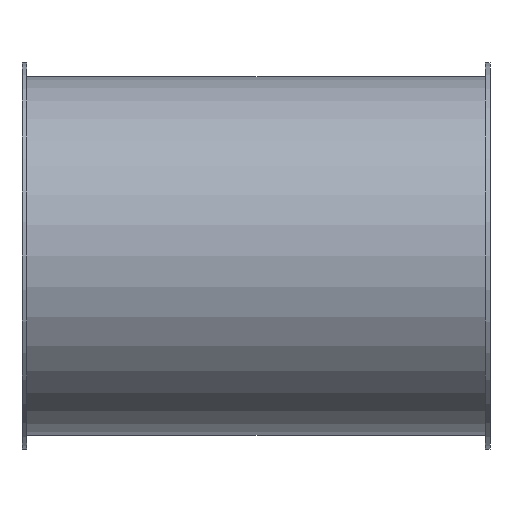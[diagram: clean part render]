
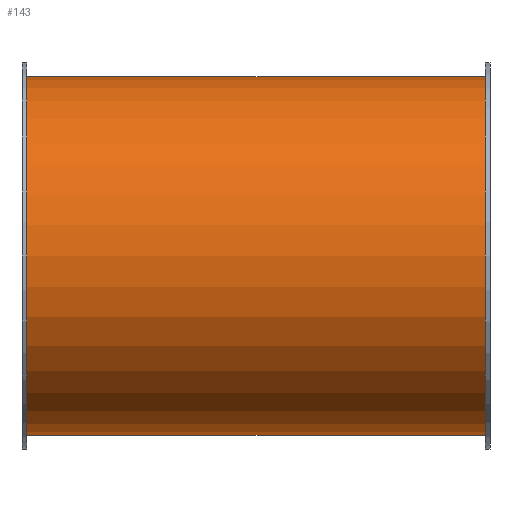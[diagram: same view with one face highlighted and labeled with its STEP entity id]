
A CAD part, front view. The second image highlights one B-rep face of the part: STEP entity #143.
In plain terms, the highlighted cylindrical face has radius 76.5 mm (diameter 153 mm), a full revolution.
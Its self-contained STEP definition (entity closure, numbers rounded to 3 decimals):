
#112=CARTESIAN_POINT('',(166.119,2.817,0.0));
#113=VERTEX_POINT('',#112);
#114=CARTESIAN_POINT('',(166.119,79.317,0.0));
#115=DIRECTION('',(-1.0,0.0,0.0));
#116=DIRECTION('',(0.0,-1.0,0.0));
#117=AXIS2_PLACEMENT_3D('',#114,#115,#116);
#118=CIRCLE('',#117,76.5);
#119=EDGE_CURVE('',#113,#113,#118,.T.);
#124=CARTESIAN_POINT('',(68.119,79.317,0.0));
#125=DIRECTION('',(-1.0,0.,0.0));
#126=DIRECTION('',(0.0,-1.0,0.0));
#127=AXIS2_PLACEMENT_3D('',#124,#125,#126);
#128=CYLINDRICAL_SURFACE('',#127,76.5);
#129=CARTESIAN_POINT('',(-29.881,2.817,0.0));
#130=VERTEX_POINT('',#129);
#131=CARTESIAN_POINT('',(-29.881,79.317,0.0));
#132=DIRECTION('',(-1.0,0.0,0.0));
#133=DIRECTION('',(0.0,-1.0,0.0));
#134=AXIS2_PLACEMENT_3D('',#131,#132,#133);
#135=CIRCLE('',#134,76.5);
#136=EDGE_CURVE('',#130,#130,#135,.T.);
#137=ORIENTED_EDGE('',*,*,#136,.F.);
#138=EDGE_LOOP('',(#137));
#139=FACE_OUTER_BOUND('',#138,.T.);
#140=ORIENTED_EDGE('',*,*,#119,.T.);
#141=EDGE_LOOP('',(#140));
#142=FACE_BOUND('',#141,.T.);
#143=ADVANCED_FACE('',(#139,#142),#128,.T.);
